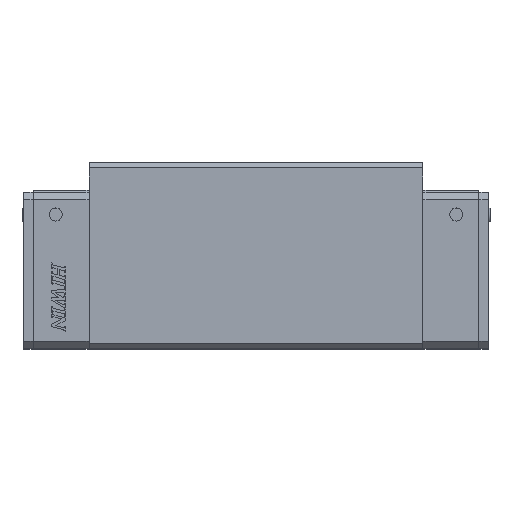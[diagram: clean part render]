
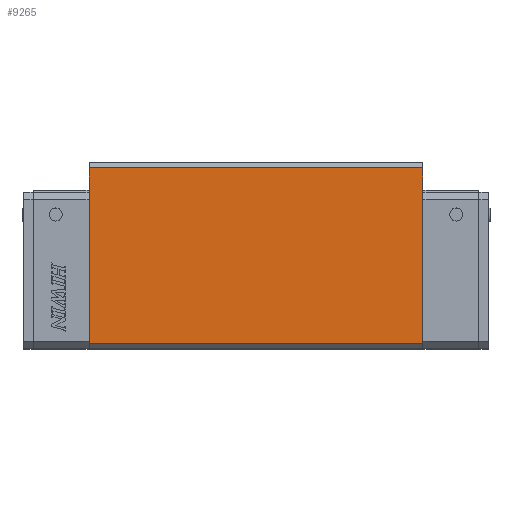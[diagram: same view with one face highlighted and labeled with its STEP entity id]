
A CAD part, top view. The second image highlights one B-rep face of the part: STEP entity #9265.
In plain terms, the highlighted planar face has unit normal (0, 0, 1) as drawn and (-1, 0, 0) by its records, which use the part's own axes.
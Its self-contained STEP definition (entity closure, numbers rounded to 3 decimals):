
#108=PLANE('',#9886);
#624=FACE_OUTER_BOUND('',#1131,.T.);
#1131=EDGE_LOOP('',(#6721,#6722,#6723,#6724));
#1934=LINE('',#13439,#3056);
#1970=LINE('',#13511,#3092);
#1986=LINE('',#13542,#3108);
#1987=LINE('',#13544,#3109);
#3056=VECTOR('',#10774,66.);
#3092=VECTOR('',#10816,66.);
#3108=VECTOR('',#10862,125.5);
#3109=VECTOR('',#10865,125.5);
#4181=VERTEX_POINT('',#13436);
#4182=VERTEX_POINT('',#13438);
#4214=VERTEX_POINT('',#13508);
#4215=VERTEX_POINT('',#13510);
#5137=EDGE_CURVE('',#4182,#4181,#1934,.T.);
#5173=EDGE_CURVE('',#4215,#4214,#1970,.T.);
#5189=EDGE_CURVE('',#4182,#4214,#1986,.T.);
#5190=EDGE_CURVE('',#4181,#4215,#1987,.T.);
#6721=ORIENTED_EDGE('',*,*,#5137,.T.);
#6722=ORIENTED_EDGE('',*,*,#5190,.T.);
#6723=ORIENTED_EDGE('',*,*,#5173,.T.);
#6724=ORIENTED_EDGE('',*,*,#5189,.F.);
#9265=ADVANCED_FACE('',(#624),#108,.T.);
#9886=AXIS2_PLACEMENT_3D('',#13543,#10863,#10864);
#10774=DIRECTION('',(0.,-1.,0.));
#10816=DIRECTION('',(0.,1.,0.));
#10862=DIRECTION('',(0.,0.,1.));
#10863=DIRECTION('center_axis',(-1.,0.,0.));
#10864=DIRECTION('ref_axis',(0.,0.,1.));
#10865=DIRECTION('',(0.,0.,1.));
#13436=CARTESIAN_POINT('',(-64.3,-32.145,-62.75));
#13438=CARTESIAN_POINT('',(-64.3,33.855,-62.75));
#13439=CARTESIAN_POINT('',(-64.3,33.855,-62.75));
#13508=CARTESIAN_POINT('',(-64.3,33.855,62.75));
#13510=CARTESIAN_POINT('',(-64.3,-32.145,62.75));
#13511=CARTESIAN_POINT('',(-64.3,-32.145,62.75));
#13542=CARTESIAN_POINT('',(-64.3,33.855,-62.75));
#13543=CARTESIAN_POINT('Origin',(-64.3,33.855,0.));
#13544=CARTESIAN_POINT('',(-64.3,-32.145,-62.75));
